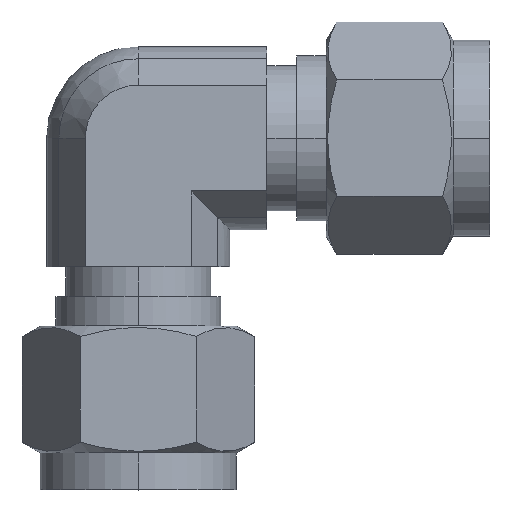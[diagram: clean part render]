
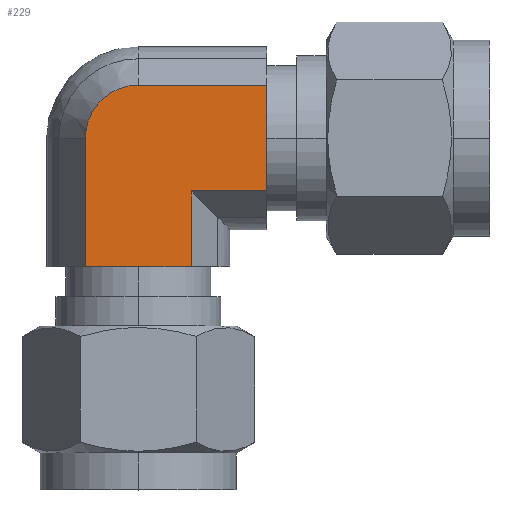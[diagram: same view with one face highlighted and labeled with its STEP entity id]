
A CAD part, top view. The second image highlights one B-rep face of the part: STEP entity #229.
In plain terms, the highlighted planar face has unit normal (0, 0, 1).
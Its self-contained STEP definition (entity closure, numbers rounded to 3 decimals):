
#86 = VERTEX_POINT ( 'NONE', #1001 ) ;
#88 = EDGE_CURVE ( 'NONE', #89, #86, #1000, .T. ) ;
#89 = VERTEX_POINT ( 'NONE', #996 ) ;
#229 = ADVANCED_FACE ( 'NONE', ( #1212 ), #1211, .F. ) ;
#230 = EDGE_LOOP ( 'NONE', ( #231, #232, #241, #244, #247, #275, #277 ) ) ;
#231 = ORIENTED_EDGE ( 'NONE', *, *, #88, .T. ) ;
#232 = ORIENTED_EDGE ( 'NONE', *, *, #233, .F. ) ;
#233 = EDGE_CURVE ( 'NONE', #234, #86, #1206, .T. ) ;
#234 = VERTEX_POINT ( 'NONE', #1202 ) ;
#241 = ORIENTED_EDGE ( 'NONE', *, *, #242, .F. ) ;
#242 = EDGE_CURVE ( 'NONE', #243, #234, #1190, .T. ) ;
#243 = VERTEX_POINT ( 'NONE', #1186 ) ;
#244 = ORIENTED_EDGE ( 'NONE', *, *, #245, .T. ) ;
#245 = EDGE_CURVE ( 'NONE', #243, #246, #1185, .T. ) ;
#246 = VERTEX_POINT ( 'NONE', #1181 ) ;
#247 = ORIENTED_EDGE ( 'NONE', *, *, #274, .F. ) ;
#248 = VERTEX_POINT ( 'NONE', #1180 ) ;
#270 = EDGE_CURVE ( 'NONE', #89, #271, #1114, .T. ) ;
#271 = VERTEX_POINT ( 'NONE', #1107 ) ;
#274 = EDGE_CURVE ( 'NONE', #248, #246, #1285, .T. ) ;
#275 = ORIENTED_EDGE ( 'NONE', *, *, #276, .F. ) ;
#276 = EDGE_CURVE ( 'NONE', #271, #248, #1280, .T. ) ;
#277 = ORIENTED_EDGE ( 'NONE', *, *, #270, .F. ) ;
#996 = CARTESIAN_POINT ( 'NONE',  ( 4.59, -11.14, 7.95 ) ) ;
#997 = DIRECTION ( 'NONE',  ( 0., 1., 0. ) ) ;
#998 = VECTOR ( 'NONE', #997, 1000. ) ;
#999 = CARTESIAN_POINT ( 'NONE',  ( 4.59, -11.14, 7.95 ) ) ;
#1000 = LINE ( 'NONE', #999, #998 ) ;
#1001 = CARTESIAN_POINT ( 'NONE',  ( 4.59, -4.59, 7.95 ) ) ;
#1107 = CARTESIAN_POINT ( 'NONE',  ( -4.59, -11.14, 7.95 ) ) ;
#1108 = DIRECTION ( 'NONE',  ( -1., 0., 0. ) ) ;
#1109 = VECTOR ( 'NONE', #1108, 1000. ) ;
#1110 = CARTESIAN_POINT ( 'NONE',  ( 4.59, -11.14, 7.95 ) ) ;
#1114 = LINE ( 'NONE', #1110, #1109 ) ;
#1180 = CARTESIAN_POINT ( 'NONE',  ( -4.59, 0., 7.95 ) ) ;
#1181 = CARTESIAN_POINT ( 'NONE',  ( 0., 4.59, 7.95 ) ) ;
#1182 = DIRECTION ( 'NONE',  ( -1., 0., 0. ) ) ;
#1183 = VECTOR ( 'NONE', #1182, 1000. ) ;
#1184 = CARTESIAN_POINT ( 'NONE',  ( 11.14, 4.59, 7.95 ) ) ;
#1185 = LINE ( 'NONE', #1184, #1183 ) ;
#1186 = CARTESIAN_POINT ( 'NONE',  ( 11.14, 4.59, 7.95 ) ) ;
#1187 = DIRECTION ( 'NONE',  ( 0., -1., 0. ) ) ;
#1188 = VECTOR ( 'NONE', #1187, 1000. ) ;
#1189 = CARTESIAN_POINT ( 'NONE',  ( 11.14, 4.59, 7.95 ) ) ;
#1190 = LINE ( 'NONE', #1189, #1188 ) ;
#1202 = CARTESIAN_POINT ( 'NONE',  ( 11.14, -4.59, 7.95 ) ) ;
#1203 = DIRECTION ( 'NONE',  ( -1., 0., 0. ) ) ;
#1204 = VECTOR ( 'NONE', #1203, 1000. ) ;
#1205 = CARTESIAN_POINT ( 'NONE',  ( 11.14, -4.59, 7.95 ) ) ;
#1206 = LINE ( 'NONE', #1205, #1204 ) ;
#1207 = DIRECTION ( 'NONE',  ( 0., 1., 0. ) ) ;
#1208 = DIRECTION ( 'NONE',  ( 0., 0., -1. ) ) ;
#1209 = AXIS2_PLACEMENT_3D ( 'NONE', #1210, #1208, #1207 ) ;
#1210 = CARTESIAN_POINT ( 'NONE',  ( 4.59, -11.14, 7.95 ) ) ;
#1211 = PLANE ( 'NONE',  #1209 ) ;
#1212 = FACE_OUTER_BOUND ( 'NONE', #230, .T. ) ;
#1277 = DIRECTION ( 'NONE',  ( 0., 1., 0. ) ) ;
#1278 = VECTOR ( 'NONE', #1277, 1000. ) ;
#1279 = CARTESIAN_POINT ( 'NONE',  ( -4.59, -11.14, 7.95 ) ) ;
#1280 = LINE ( 'NONE', #1279, #1278 ) ;
#1281 = DIRECTION ( 'NONE',  ( 0., 1., 0. ) ) ;
#1282 = DIRECTION ( 'NONE',  ( 0., 0., -1. ) ) ;
#1283 = CARTESIAN_POINT ( 'NONE',  ( 0., 0., 7.95 ) ) ;
#1284 = AXIS2_PLACEMENT_3D ( 'NONE', #1283, #1282, #1281 ) ;
#1285 = CIRCLE ( 'NONE', #1284, 4.59 ) ;
